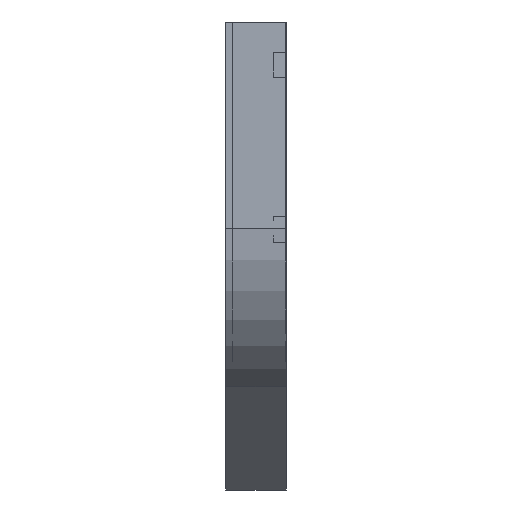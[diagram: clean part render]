
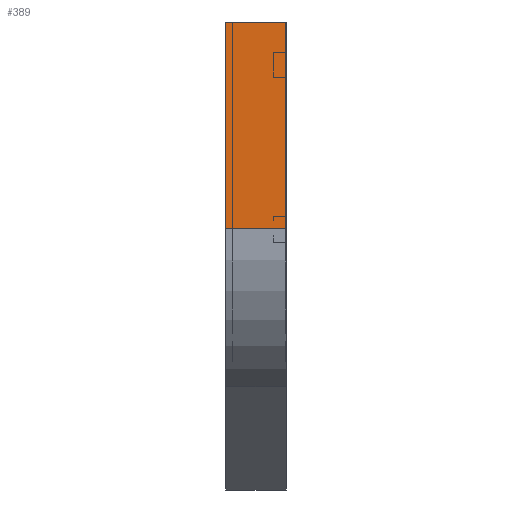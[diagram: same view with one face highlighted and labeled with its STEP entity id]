
A CAD part, left-side view. The second image highlights one B-rep face of the part: STEP entity #389.
In plain terms, the highlighted planar face has unit normal (-1, 0, 0).
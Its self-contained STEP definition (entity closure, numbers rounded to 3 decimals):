
#12 = FACE_OUTER_BOUND ( 'NONE', #1352, .T. ) ;
#35 = LINE ( 'NONE', #460, #1561 ) ;
#64 = EDGE_CURVE ( 'NONE', #1767, #864, #1265, .T. ) ;
#72 = VERTEX_POINT ( 'NONE', #443 ) ;
#125 = DIRECTION ( 'NONE',  ( 1., 0., 0. ) ) ;
#174 = AXIS2_PLACEMENT_3D ( 'NONE', #715, #125, #988 ) ;
#204 = LINE ( 'NONE', #780, #943 ) ;
#311 = ORIENTED_EDGE ( 'NONE', *, *, #823, .T. ) ;
#321 = CARTESIAN_POINT ( 'NONE',  ( 0., 0., 0. ) ) ;
#389 = ADVANCED_FACE ( 'NONE', ( #12 ), #1437, .F. ) ;
#397 = VECTOR ( 'NONE', #716, 1000. ) ;
#443 = CARTESIAN_POINT ( 'NONE',  ( 0., 100., -338.675 ) ) ;
#460 = CARTESIAN_POINT ( 'NONE',  ( 0., 100., 0. ) ) ;
#500 = ORIENTED_EDGE ( 'NONE', *, *, #647, .F. ) ;
#647 = EDGE_CURVE ( 'NONE', #864, #1728, #1732, .T. ) ;
#715 = CARTESIAN_POINT ( 'NONE',  ( 0., 0., 0. ) ) ;
#716 = DIRECTION ( 'NONE',  ( 0., 0., -1. ) ) ;
#741 = ORIENTED_EDGE ( 'NONE', *, *, #64, .F. ) ;
#780 = CARTESIAN_POINT ( 'NONE',  ( 0., 0., -338.675 ) ) ;
#823 = EDGE_CURVE ( 'NONE', #1767, #72, #35, .T. ) ;
#864 = VERTEX_POINT ( 'NONE', #321 ) ;
#943 = VECTOR ( 'NONE', #1354, 1000. ) ;
#988 = DIRECTION ( 'NONE',  ( 0., 0., -1. ) ) ;
#1121 = CARTESIAN_POINT ( 'NONE',  ( 0., 0., 0. ) ) ;
#1147 = CARTESIAN_POINT ( 'NONE',  ( 0., 0., 0. ) ) ;
#1265 = LINE ( 'NONE', #1121, #1624 ) ;
#1352 = EDGE_LOOP ( 'NONE', ( #500, #741, #311, #1683 ) ) ;
#1354 = DIRECTION ( 'NONE',  ( 0., -1., 0. ) ) ;
#1398 = CARTESIAN_POINT ( 'NONE',  ( 0., 100., 0. ) ) ;
#1433 = DIRECTION ( 'NONE',  ( 0., -1., 0. ) ) ;
#1437 = PLANE ( 'NONE',  #174 ) ;
#1468 = DIRECTION ( 'NONE',  ( 0., 0., -1. ) ) ;
#1558 = CARTESIAN_POINT ( 'NONE',  ( 0., 0., -338.675 ) ) ;
#1561 = VECTOR ( 'NONE', #1468, 1000. ) ;
#1624 = VECTOR ( 'NONE', #1433, 1000. ) ;
#1659 = EDGE_CURVE ( 'NONE', #72, #1728, #204, .T. ) ;
#1683 = ORIENTED_EDGE ( 'NONE', *, *, #1659, .T. ) ;
#1728 = VERTEX_POINT ( 'NONE', #1558 ) ;
#1732 = LINE ( 'NONE', #1147, #397 ) ;
#1767 = VERTEX_POINT ( 'NONE', #1398 ) ;
